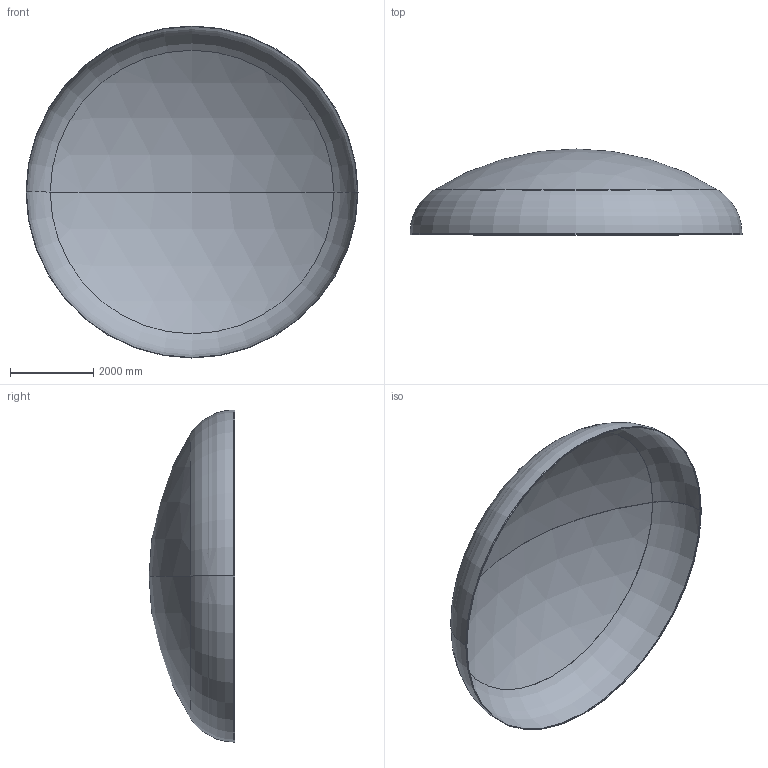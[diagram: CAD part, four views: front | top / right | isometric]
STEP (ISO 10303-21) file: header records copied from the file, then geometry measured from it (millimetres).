
FILE_DESCRIPTION (( 'STEP AP203' ), '1' );
FILE_NAME ('DIN 28013 Korbbogenform_-_Boden DIN 28013 - 8000 x 30 - I - s=10.step', '2016-07-04T10:58:15', ( '' ), ( '' ), 'SwSTEP 2.0', 'SolidWorks 2013', '' );
FILE_SCHEMA (( 'CONFIG_CONTROL_DESIGN' ));
Length unit declared in the file: millimetre
Products named in the file (1): DIN 28013 Korbbogenform_-_Boden DIN 28013 - 8000 x 30 - I - s=10
Bounding box: 8000 x 2068.35 x 8000 mm (x, y, z)
Volume: 702407864.6 mm3; surface area: 140732736.8 mm2
Topology: 1 solids, 1 shells, 13 faces, 24 edges, 14 vertices
Faces by surface type: torus 4, cylinder 4, sphere 4, plane 1
Entity records: 407 total; most frequent: DIRECTION 72, CARTESIAN_POINT 52, ORIENTED_EDGE 48, AXIS2_PLACEMENT_3D 34, EDGE_CURVE 24, CIRCLE 20, VERTEX_POINT 14, EDGE_LOOP 14
